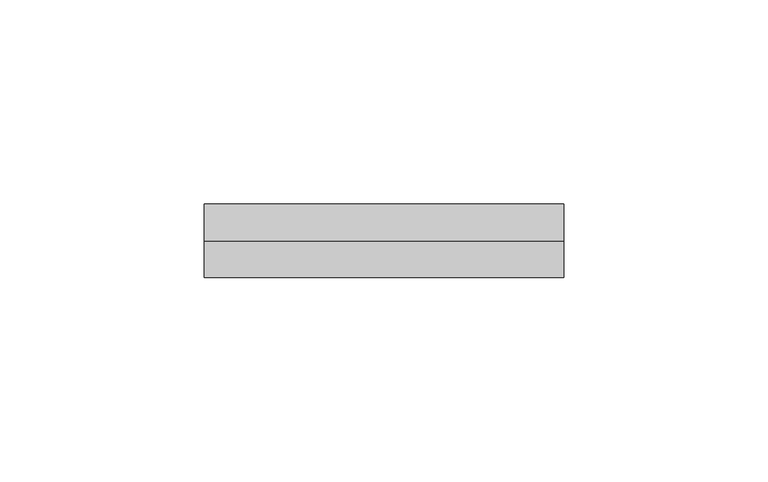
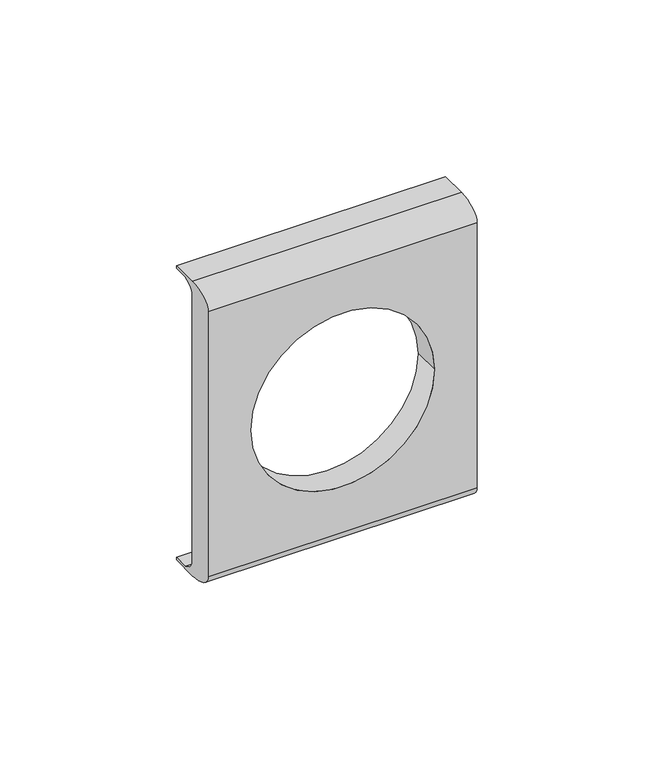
"""IFC4 building model written with IfcOpenShell, lengths in millimetres: proxy geometry, КНС_РамкаСуппортPDA-N_ILC_DKC : Рамка суппорт PDA-N_DKC."""

from ifc_helpers import new_model, si_unit, point, frame, origin, place, context, project, spatial, polyline, circle_curve, ellipse_curve, trimmed, source, transform, mapped, element, save
from ifc_brep_helpers import plane_surface, revolved_surface, extruded_surface, advanced_brep


def electrical_fixtures_5255f015(model_context):
    return source(origin(), model_context, "Body", "AdvancedBrep", [
        advanced_brep(
        [(44.0, 9.0, 50.85), (44.0, 0.0, 50.85), (44.0, -9.0, 45.85), (44.0, -9.0, -45.85), (44.0, 0.0, -50.85), (44.0, 9.0, -50.85), (44.0, 9.0, -50.0), (44.0, 3.9801295, -50.0), (44.0, 0.0, -45.85), (44.0, 0.0, 45.85), (44.0, 3.9801295, 50.0), (44.0, 9.0, 50.0), (-44.0, 9.0, 50.85), (-44.0, 9.0, 50.0), (-44.0, 3.9801295, 50.0), (-44.0, 0.0, 45.85), (-44.0, 0.0, -45.85), (-44.0, 3.9801295, -50.0), (-44.0, 9.0, -50.0), (-44.0, 9.0, -50.85), (-44.0, 0.0, -50.85), (-44.0, -9.0, -45.85), (-44.0, -9.0, 45.85), (-44.0, 0.0, 50.85), (30.0, -9.0, 0.0), (-30.0, -9.0, 0.0), (-30.0, 0.0, 0.0), (30.0, 0.0, 0.0)],
        [
            (0, 1),
            (1, 2, ellipse_curve(frame((44.0, 0.0, 45.85), z_axis=(1.0, 0.0, 0.0), x_axis=(0.0, 1.0, 0.0)), 9.0, 5.0)),
            (2, 3),
            (3, 4, ellipse_curve(frame((44.0, 0.0, -45.85), z_axis=(1.0, 0.0, 0.0), x_axis=(0.0, 1.0, 0.0)), 9.0, 5.0)),
            (4, 5),
            (5, 6),
            (6, 7),
            (7, 8, ellipse_curve(frame((44.0, 9.0, -45.85), z_axis=(-1.0, 0.0, 0.0), x_axis=(0.0, 1.0, 0.0)), 9.0, 5.0)),
            (8, 9),
            (9, 10, ellipse_curve(frame((44.0, 9.0, 45.85), z_axis=(-1.0, 0.0, 0.0), x_axis=(0.0, 1.0, 0.0)), 9.0, 5.0)),
            (10, 11),
            (11, 0),
            (12, 13),
            (13, 14),
            (14, 15, ellipse_curve(frame((-44.0, 9.0, 45.85), z_axis=(1.0, 0.0, 0.0), x_axis=(0.0, 1.0, 0.0)), 9.0, 5.0)),
            (15, 16),
            (16, 17, ellipse_curve(frame((-44.0, 9.0, -45.85), z_axis=(1.0, 0.0, 0.0), x_axis=(0.0, 1.0, 0.0)), 9.0, 5.0)),
            (17, 18),
            (18, 19),
            (19, 20),
            (20, 21, ellipse_curve(frame((-44.0, 0.0, -45.85), z_axis=(-1.0, 0.0, 0.0), x_axis=(0.0, 1.0, 0.0)), 9.0, 5.0)),
            (21, 22),
            (22, 23, ellipse_curve(frame((-44.0, 0.0, 45.85), z_axis=(-1.0, 0.0, 0.0), x_axis=(0.0, 1.0, 0.0)), 9.0, 5.0)),
            (23, 12),
            (0, 12),
            (23, 1),
            (2, 22),
            (21, 3),
            (24, 25, circle_curve(frame((0.0, -9.0, 0.0), z_axis=(0.0, 1.0, 0.0), x_axis=(1.0, 0.0, 0.0)), 30.0)),
            (25, 24, circle_curve(frame((0.0, -9.0, 0.0), z_axis=(0.0, 1.0, 0.0), x_axis=(1.0, 0.0, 0.0)), 30.0)),
            (4, 20),
            (19, 5),
            (18, 6),
            (17, 7),
            (8, 16),
            (15, 9),
            (26, 27, circle_curve(frame((0.0, 0.0, 0.0), z_axis=(0.0, -1.0, 0.0), x_axis=(1.0, 0.0, 0.0)), 30.0)),
            (27, 26, circle_curve(frame((0.0, 0.0, 0.0), z_axis=(0.0, -1.0, 0.0), x_axis=(1.0, 0.0, 0.0)), 30.0)),
            (10, 14),
            (13, 11),
            (24, 27),
            (26, 25),
        ],
        [
            plane_surface(frame((44.0, 9.0, 50.85), z_axis=(1.0, 0.0, 0.0), x_axis=(0.0, -1.0, 0.0))),
            plane_surface(frame((-44.0, 9.0, 50.85), z_axis=(-1.0, 0.0, 0.0), x_axis=(0.0, 1.0, 0.0))),
            plane_surface(frame((44.0, 9.0, 50.85), z_axis=(0.0, 0.0, 1.0), x_axis=(-1.0, 0.0, 0.0))),
            plane_surface(frame((44.0, -9.0, 45.85), z_axis=(0.0, -1.0, 0.0), x_axis=(-1.0, 0.0, 0.0))),
            plane_surface(frame((44.0, 0.0, -50.85), z_axis=(0.0, 0.0, -1.0), x_axis=(-1.0, 0.0, 0.0))),
            plane_surface(frame((44.0, 9.0, -50.85), z_axis=(0.0, 1.0, 0.0), x_axis=(-1.0, 0.0, 0.0))),
            plane_surface(frame((44.0, 9.0, -50.0), z_axis=(0.0, 0.0, 1.0), x_axis=(-1.0, 0.0, 0.0))),
            plane_surface(frame((44.0, 0.0, -45.85), z_axis=(0.0, 1.0, 0.0), x_axis=(-1.0, 0.0, 0.0))),
            plane_surface(frame((44.0, 3.9801295, 50.0), z_axis=(0.0, 0.0, -1.0), x_axis=(-1.0, 0.0, 0.0))),
            plane_surface(frame((44.0, 9.0, 50.0), z_axis=(0.0, 1.0, 0.0), x_axis=(-1.0, 0.0, 0.0))),
            extruded_surface(trimmed(ellipse_curve(frame((-132.0, 0.0, 45.85), z_axis=(1.0, 0.0, 0.0), x_axis=(0.0, 1.0, 0.0)), 9.0, 5.0), [point((-132.0, 0.0, 50.85))], [point((-132.0, -9.0, 45.85))], True, "CARTESIAN"), (88.0, 0.0, 0.0), 88.0),
            extruded_surface(trimmed(ellipse_curve(frame((-132.0, 0.0, -45.85), z_axis=(1.0, 0.0, 0.0), x_axis=(0.0, 1.0, 0.0)), 9.0, 5.0), [point((-132.0, -9.0, -45.85))], [point((-132.0, 0.0, -50.85))], True, "CARTESIAN"), (88.0, 0.0, 0.0), 88.0),
            extruded_surface(trimmed(ellipse_curve(frame((-132.0, 9.0, -45.85), z_axis=(-1.0, 0.0, 0.0), x_axis=(0.0, 1.0, 0.0)), 9.0, 5.0), [point((-132.0, 3.9801295, -50.0))], [point((-132.0, 0.0, -45.85))], True, "CARTESIAN"), (88.0, 0.0, 0.0), 88.0),
            extruded_surface(trimmed(ellipse_curve(frame((-132.0, 9.0, 45.85), z_axis=(-1.0, 0.0, 0.0), x_axis=(0.0, 1.0, 0.0)), 9.0, 5.0), [point((-132.0, 0.0, 45.85))], [point((-132.0, 3.9801295, 50.0))], True, "CARTESIAN"), (88.0, 0.0, 0.0), 88.0),
            revolved_surface(polyline([(30.0, -9.0, 0.0), (30.0, 0.0, 0.0)]), (0.0, 0.0, 0.0), (0.0, -1.0, 0.0)),
        ],
        [
            (0, [[1, 2, 3, 4, 5, 6, 7, 8, 9, 10, 11, 12]]),
            (1, [[13, 14, 15, 16, 17, 18, 19, 20, 21, 22, 23, 24]]),
            (2, [[-1, 25, -24, 26]]),
            (3, [[-3, 27, -22, 28], [29, 30]]),
            (4, [[-5, 31, -20, 32]]),
            (5, [[-6, -32, -19, 33]]),
            (6, [[-7, -33, -18, 34]]),
            (7, [[-9, 35, -16, 36], [37, 38]]),
            (8, [[-11, 39, -14, 40]]),
            (9, [[-12, -40, -13, -25]]),
            (10, [[-2, -26, -23, -27]]),
            (11, [[-4, -28, -21, -31]]),
            (12, [[-8, -34, -17, -35]]),
            (13, [[-10, -36, -15, -39]]),
            (14, [[41, -37, 42, -29]]),
            (14, [[-41, -30, -42, -38]]),
        ],
    ),
    ])


if __name__ == "__main__":
    model = new_model("IFC4")
    model_context = context("Model", 3, world=origin())
    ifc_project = project(units=[si_unit("LENGTHUNIT", "METRE", prefix="MILLI")], contexts=[model_context])
    site = spatial("IfcSite", under=ifc_project)
    building = spatial("IfcBuilding", under=site)
    placement = place(None, origin())
    electrical_fixtures_shape = electrical_fixtures_5255f015(model_context)
    element("IfcBuildingElementProxy", 1, Name="КНС_РамкаСуппортPDA-N_ILC_DKC : Рамка суппорт PDA-N_DKC", ObjectType="КНС_РамкаСуппортPDA-N_ILC_DKC : Рамка суппорт PDA-N_DKC", at=placement, inside=building, context=model_context, shape_type="MappedRepresentation", body=[
        mapped(electrical_fixtures_shape, transform((0.0, 0.0, 0.0), x_axis=(1.0, 0.0, 0.0), y_axis=(0.0, 1.0, 0.0), z_axis=(0.0, 0.0, 1.0))),
    ])
    save(model, "model.ifc")
